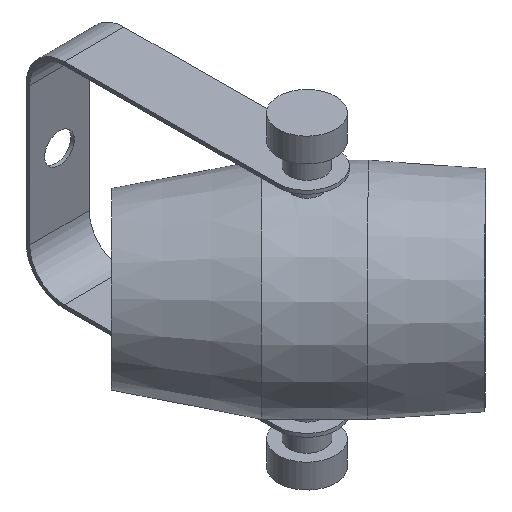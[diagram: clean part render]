
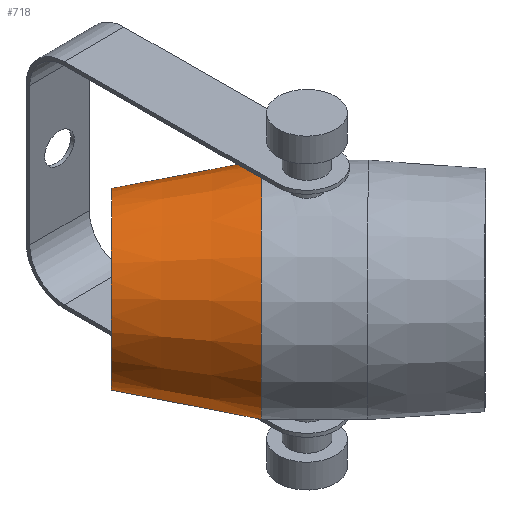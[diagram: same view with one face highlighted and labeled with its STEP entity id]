
A CAD part, isometric view. The second image highlights one B-rep face of the part: STEP entity #718.
In plain terms, the highlighted conical face has half-angle 10.923 degrees and reference radius 40 mm.
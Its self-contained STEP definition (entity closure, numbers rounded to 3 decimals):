
#19=CONICAL_SURFACE('',#832,40.,0.191);
#113=FACE_OUTER_BOUND('',#164,.T.);
#164=EDGE_LOOP('',(#632,#633,#634,#635,#636,#637));
#211=LINE('',#1342,#256);
#256=VECTOR('',#1056,40.);
#298=CIRCLE('',#830,31.107);
#299=CIRCLE('',#831,31.107);
#300=CIRCLE('',#833,40.);
#301=CIRCLE('',#834,40.);
#362=VERTEX_POINT('',#1336);
#363=VERTEX_POINT('',#1337);
#364=VERTEX_POINT('',#1341);
#365=VERTEX_POINT('',#1343);
#455=EDGE_CURVE('',#362,#363,#298,.T.);
#456=EDGE_CURVE('',#363,#362,#299,.T.);
#457=EDGE_CURVE('',#363,#364,#211,.T.);
#458=EDGE_CURVE('',#365,#364,#300,.T.);
#459=EDGE_CURVE('',#364,#365,#301,.T.);
#632=ORIENTED_EDGE('',*,*,#455,.T.);
#633=ORIENTED_EDGE('',*,*,#457,.T.);
#634=ORIENTED_EDGE('',*,*,#458,.F.);
#635=ORIENTED_EDGE('',*,*,#459,.F.);
#636=ORIENTED_EDGE('',*,*,#457,.F.);
#637=ORIENTED_EDGE('',*,*,#456,.T.);
#718=ADVANCED_FACE('',(#113),#19,.T.);
#830=AXIS2_PLACEMENT_3D('',#1338,#1050,#1051);
#831=AXIS2_PLACEMENT_3D('',#1339,#1052,#1053);
#832=AXIS2_PLACEMENT_3D('',#1340,#1054,#1055);
#833=AXIS2_PLACEMENT_3D('',#1344,#1057,#1058);
#834=AXIS2_PLACEMENT_3D('',#1345,#1059,#1060);
#1050=DIRECTION('center_axis',(1.,-0.006,0.));
#1051=DIRECTION('ref_axis',(-0.006,-1.,0.));
#1052=DIRECTION('center_axis',(1.,-0.006,0.));
#1053=DIRECTION('ref_axis',(-0.006,-1.,0.));
#1054=DIRECTION('center_axis',(1.,-0.006,0.));
#1055=DIRECTION('ref_axis',(0.,0.,-1.));
#1056=DIRECTION('',(0.982,-0.006,0.189));
#1057=DIRECTION('center_axis',(1.,-0.006,0.));
#1058=DIRECTION('ref_axis',(0.,0.,-1.));
#1059=DIRECTION('center_axis',(1.,-0.006,0.));
#1060=DIRECTION('ref_axis',(0.,0.,-1.));
#1336=CARTESIAN_POINT('',(-45.449,-54.057,0.));
#1337=CARTESIAN_POINT('',(-45.272,-22.95,31.107));
#1338=CARTESIAN_POINT('Origin',(-45.272,-22.95,0.));
#1339=CARTESIAN_POINT('Origin',(-45.272,-22.95,0.));
#1340=CARTESIAN_POINT('Origin',(0.809,-23.213,0.));
#1341=CARTESIAN_POINT('',(0.809,-23.213,40.));
#1342=CARTESIAN_POINT('',(0.809,-23.213,40.));
#1343=CARTESIAN_POINT('',(0.809,-23.213,-40.));
#1344=CARTESIAN_POINT('Origin',(0.809,-23.213,0.));
#1345=CARTESIAN_POINT('Origin',(0.809,-23.213,0.));
